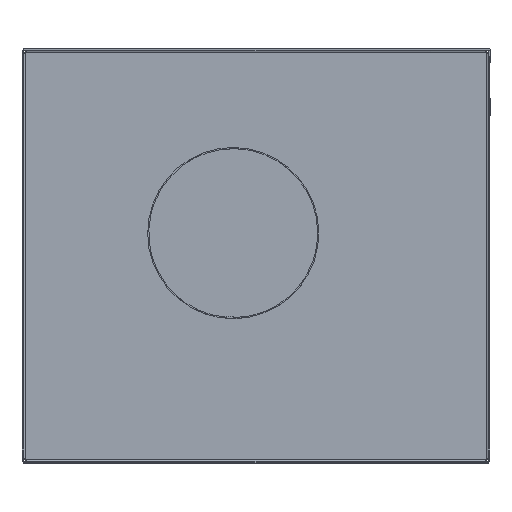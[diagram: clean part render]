
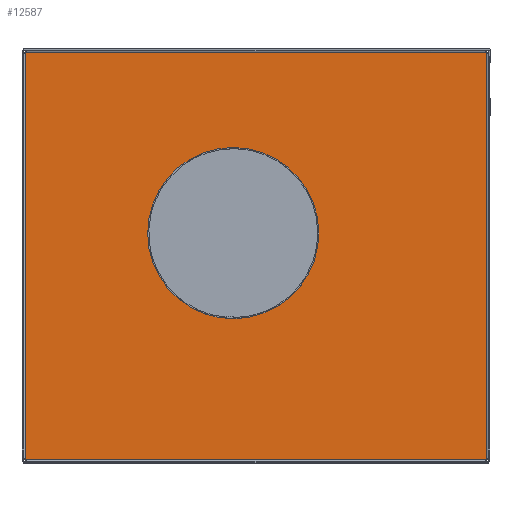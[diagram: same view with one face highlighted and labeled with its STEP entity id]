
A CAD part, top view. The second image highlights one B-rep face of the part: STEP entity #12587.
In plain terms, the highlighted planar face has unit normal (0, 0, 1).
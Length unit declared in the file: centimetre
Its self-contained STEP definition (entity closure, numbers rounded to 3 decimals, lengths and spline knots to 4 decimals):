
#520=FACE_BOUND('',#2278,.T.);
#760=PLANE('',#13214);
#831=CIRCLE('',#13035,0.1991);
#833=CIRCLE('',#13038,7.9);
#917=CIRCLE('',#13215,0.25);
#918=CIRCLE('',#13216,0.25);
#919=CIRCLE('',#13217,0.25);
#920=CIRCLE('',#13218,0.25);
#1534=FACE_OUTER_BOUND('',#2277,.T.);
#2277=EDGE_LOOP('',(#11132,#11133,#11134,#11135,#11136,#11137,#11138,#11139));
#2278=EDGE_LOOP('',(#11140,#11141,#11142,#11143,#11144));
#3041=LINE('',#23442,#3942);
#3045=LINE('',#23449,#3946);
#3055=LINE('',#23484,#3956);
#3187=LINE('',#24908,#4088);
#3188=LINE('',#24912,#4089);
#3189=LINE('',#24916,#4090);
#3190=LINE('',#24919,#4091);
#3942=VECTOR('',#14662,0.0019);
#3946=VECTOR('',#14668,0.1063);
#3956=VECTOR('',#14708,0.0018);
#4088=VECTOR('',#15158,42.572);
#4089=VECTOR('',#15161,37.572);
#4090=VECTOR('',#15164,42.572);
#4091=VECTOR('',#15167,37.572);
#5795=VERTEX_POINT('',#23425);
#5796=VERTEX_POINT('',#23426);
#5799=VERTEX_POINT('',#23434);
#5801=VERTEX_POINT('',#23440);
#5802=VERTEX_POINT('',#23441);
#5961=VERTEX_POINT('',#24904);
#5962=VERTEX_POINT('',#24905);
#5963=VERTEX_POINT('',#24907);
#5964=VERTEX_POINT('',#24909);
#5965=VERTEX_POINT('',#24911);
#5966=VERTEX_POINT('',#24913);
#5967=VERTEX_POINT('',#24915);
#5968=VERTEX_POINT('',#24917);
#7474=EDGE_CURVE('',#5795,#5796,#831,.T.);
#7478=EDGE_CURVE('',#5799,#5795,#833,.T.);
#7481=EDGE_CURVE('',#5801,#5802,#3041,.T.);
#7485=EDGE_CURVE('',#5802,#5799,#3045,.T.);
#7503=EDGE_CURVE('',#5796,#5801,#3055,.T.);
#7725=EDGE_CURVE('',#5961,#5962,#917,.T.);
#7726=EDGE_CURVE('',#5962,#5963,#3187,.T.);
#7727=EDGE_CURVE('',#5963,#5964,#918,.T.);
#7728=EDGE_CURVE('',#5964,#5965,#3188,.T.);
#7729=EDGE_CURVE('',#5965,#5966,#919,.T.);
#7730=EDGE_CURVE('',#5966,#5967,#3189,.T.);
#7731=EDGE_CURVE('',#5967,#5968,#920,.T.);
#7732=EDGE_CURVE('',#5968,#5961,#3190,.T.);
#11132=ORIENTED_EDGE('',*,*,#7725,.T.);
#11133=ORIENTED_EDGE('',*,*,#7726,.T.);
#11134=ORIENTED_EDGE('',*,*,#7727,.T.);
#11135=ORIENTED_EDGE('',*,*,#7728,.T.);
#11136=ORIENTED_EDGE('',*,*,#7729,.T.);
#11137=ORIENTED_EDGE('',*,*,#7730,.T.);
#11138=ORIENTED_EDGE('',*,*,#7731,.T.);
#11139=ORIENTED_EDGE('',*,*,#7732,.T.);
#11140=ORIENTED_EDGE('',*,*,#7485,.T.);
#11141=ORIENTED_EDGE('',*,*,#7478,.T.);
#11142=ORIENTED_EDGE('',*,*,#7474,.T.);
#11143=ORIENTED_EDGE('',*,*,#7503,.T.);
#11144=ORIENTED_EDGE('',*,*,#7481,.T.);
#12587=ADVANCED_FACE('',(#1534,#520),#760,.F.);
#13035=AXIS2_PLACEMENT_3D('',#23427,#14647,#14648);
#13038=AXIS2_PLACEMENT_3D('',#23435,#14655,#14656);
#13214=AXIS2_PLACEMENT_3D('',#24903,#15154,#15155);
#13215=AXIS2_PLACEMENT_3D('',#24906,#15156,#15157);
#13216=AXIS2_PLACEMENT_3D('',#24910,#15159,#15160);
#13217=AXIS2_PLACEMENT_3D('',#24914,#15162,#15163);
#13218=AXIS2_PLACEMENT_3D('',#24918,#15165,#15166);
#14647=DIRECTION('center_axis',(0.,0.,
-1.));
#14648=DIRECTION('ref_axis',(0.865,0.501,0.));
#14655=DIRECTION('center_axis',(0.,0.,
-1.));
#14656=DIRECTION('ref_axis',(-1.,0.,0.));
#14662=DIRECTION('',(-0.342,0.94,0.));
#14668=DIRECTION('',(-0.342,-0.94,0.));
#14708=DIRECTION('',(0.,-1.,0.));
#15154=DIRECTION('center_axis',(0.,0.,
-1.));
#15155=DIRECTION('ref_axis',(1.,0.,0.));
#15156=DIRECTION('center_axis',(0.,0.,
-1.));
#15157=DIRECTION('ref_axis',(-1.,0.,0.));
#15158=DIRECTION('',(1.,0.,0.));
#15159=DIRECTION('center_axis',(0.,0.,
-1.));
#15160=DIRECTION('ref_axis',(-1.,0.,0.));
#15161=DIRECTION('',(0.,1.,0.));
#15162=DIRECTION('center_axis',(0.,0.,
-1.));
#15163=DIRECTION('ref_axis',(-1.,0.,0.));
#15164=DIRECTION('',(-1.,0.,0.));
#15165=DIRECTION('center_axis',(0.,0.,
-1.));
#15166=DIRECTION('ref_axis',(-1.,0.,0.));
#15167=DIRECTION('',(0.,-1.,0.));
#23425=CARTESIAN_POINT('',(24.9115,-12.2746,18.6446));
#23426=CARTESIAN_POINT('',(24.7576,-12.1761,18.6446));
#23427=CARTESIAN_POINT('Origin',(24.9299,-12.0763,18.6446));
#23434=CARTESIAN_POINT('',(24.7205,-12.276,18.6446));
#23435=CARTESIAN_POINT('Origin',(24.7569,-4.3761,18.6446));
#23440=CARTESIAN_POINT('',(24.7576,-12.1779,18.6446));
#23441=CARTESIAN_POINT('',(24.7569,-12.1761,18.6446));
#23442=CARTESIAN_POINT('',(21.2476,-2.5343,18.6446));
#23449=CARTESIAN_POINT('',(26.5046,-7.3745,18.6446));
#23484=CARTESIAN_POINT('',(24.7576,-3.6888,18.6446));
#24903=CARTESIAN_POINT('Origin',(11.3945,4.7986,18.6446));
#24904=CARTESIAN_POINT('',(5.5569,-25.2621,18.6446));
#24905=CARTESIAN_POINT('',(5.5709,-25.2761,18.6446));
#24906=CARTESIAN_POINT('Origin',(5.3873,-25.4457,18.6446));
#24907=CARTESIAN_POINT('',(48.1429,-25.2761,18.6446));
#24908=CARTESIAN_POINT('',(16.2069,-25.2761,18.6446));
#24909=CARTESIAN_POINT('',(48.1569,-25.2621,18.6446));
#24910=CARTESIAN_POINT('Origin',(48.3265,-25.4457,18.6446));
#24911=CARTESIAN_POINT('',(48.1569,12.3099,18.6446));
#24912=CARTESIAN_POINT('',(48.1569,-15.8761,18.6446));
#24913=CARTESIAN_POINT('',(48.1429,12.3239,18.6446));
#24914=CARTESIAN_POINT('Origin',(48.3265,12.4936,18.6446));
#24915=CARTESIAN_POINT('',(5.5709,12.3239,18.6446));
#24916=CARTESIAN_POINT('',(37.5819,12.3239,18.6446));
#24917=CARTESIAN_POINT('',(5.5569,12.3099,18.6446));
#24918=CARTESIAN_POINT('Origin',(5.3873,12.4936,18.6446));
#24919=CARTESIAN_POINT('',(5.5569,2.9989,18.6446));
